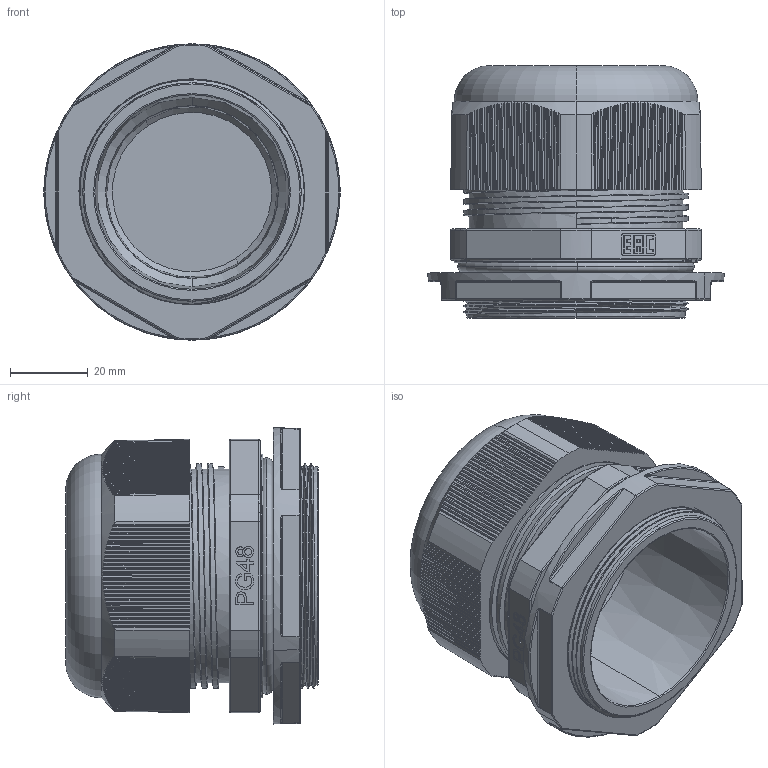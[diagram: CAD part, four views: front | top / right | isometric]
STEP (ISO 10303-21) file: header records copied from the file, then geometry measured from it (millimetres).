
FILE_DESCRIPTION (( 'STEP AP203' ), '1' );
FILE_NAME ('plc-pg-48-00.00.000ÑÁ Ñàëüíèê PG48 #cable gland PG48#.STEP', '2024-02-27T13:36:52', ( '' ), ( '' ), 'SwSTEP 2.0', 'SolidWorks 2021', '' );
FILE_SCHEMA (( 'CONFIG_CONTROL_DESIGN' ));
Length unit declared in the file: millimetre
Products named in the file (6): plc-pg-48-00.00.002 Ãàéêà öàíãîâàÿ (PG48) #collet nut (PG48)#; plc-pg-48-00.00.005 ﾌ瑙趺 (PG48) #sealing ring (PG48)#; plc-pg-48-00.00.003 Ãàéêà ïðèæèìíàÿ (PG48-Ì58) #clamping nut (PG48-M58)#; plc-pg-48-00.00.001 昢膼瘔 (PG48) #base (PG48)#; plc-pg-48-00.00.000ÑÁ Ñàëüíèê PG48 #cable gland PG48#; plc-pg-48-00.00.004 Óïëîòíèòåëü (PG48) #sealant (PG48)#
Assembly tree (5 placements, depth 2):
  plc-pg-48-00.00.000ÑÁ Ñàëüíèê PG48 #cable gland PG48#
    plc-pg-48-00.00.001 昢膼瘔 (PG48) #base (PG48)#
    plc-pg-48-00.00.002 Ãàéêà öàíãîâàÿ (PG48) #collet nut (PG48)#
    plc-pg-48-00.00.003 Ãàéêà ïðèæèìíàÿ (PG48-Ì58) #clamping nut (PG48-M58)#
    plc-pg-48-00.00.004 Óïëîòíèòåëü (PG48) #sealant (PG48)#
    plc-pg-48-00.00.005 ﾌ瑙趺 (PG48) #sealing ring (PG48)#
Bounding box: 76.5 x 65.15 x 76.5 mm (x, y, z)
Volume: 90968.7 mm3; surface area: 65636 mm2
Topology: 5 solids, 8 shells, 1200 faces, 3321 edges, 2141 vertices
Faces by surface type: plane 745, cone 142, cylinder 125, torus 96, bspline 80, sphere 12
Entity records: 48830 total; most frequent: CARTESIAN_POINT 20018, ORIENTED_EDGE 6618, DIRECTION 4905, EDGE_CURVE 3309, VERTEX_POINT 2141, AXIS2_PLACEMENT_3D 1660, VECTOR 1585, LINE 1585
